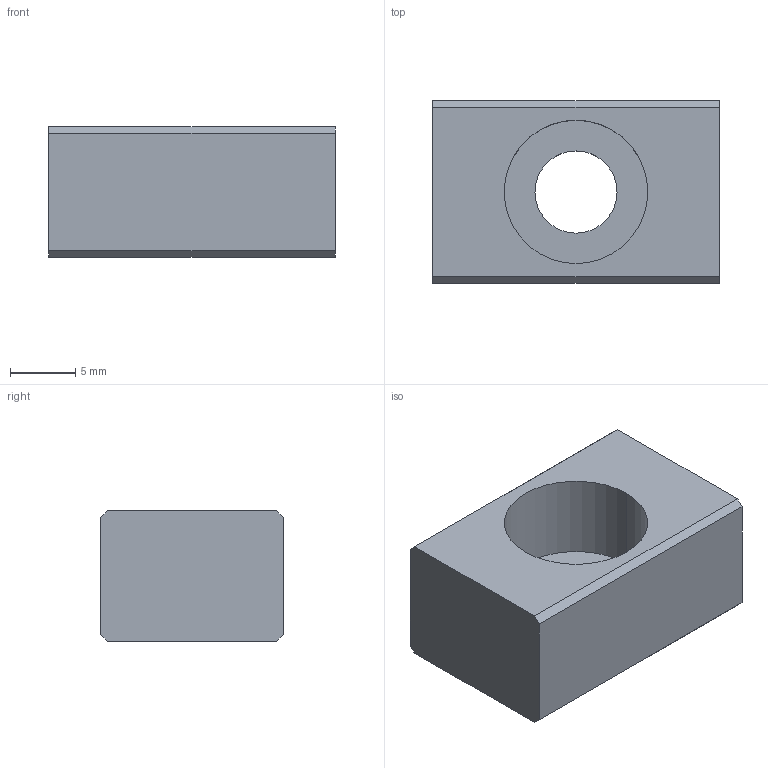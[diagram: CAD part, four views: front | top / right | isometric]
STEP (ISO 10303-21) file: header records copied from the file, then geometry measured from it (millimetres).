
FILE_DESCRIPTION (( 'STEP AP203' ), '1' );
FILE_NAME ('452214.STEP', '2018-10-15T11:08:19', ( '' ), ( '' ), 'SwSTEP 2.0', 'SolidWorks 2015', '' );
FILE_SCHEMA (( 'CONFIG_CONTROL_DESIGN' ));
Length unit declared in the file: millimetre
Products named in the file (1): 452214
Bounding box: 22 x 14 x 10 mm (x, y, z)
Volume: 2335.8 mm3; surface area: 1542.3 mm2
Topology: 1 solids, 1 shells, 15 faces, 36 edges, 24 vertices
Faces by surface type: plane 11, cylinder 4
Entity records: 519 total; most frequent: CARTESIAN_POINT 76, DIRECTION 76, ORIENTED_EDGE 72, EDGE_CURVE 36, VECTOR 28, LINE 28, AXIS2_PLACEMENT_3D 24, VERTEX_POINT 24
